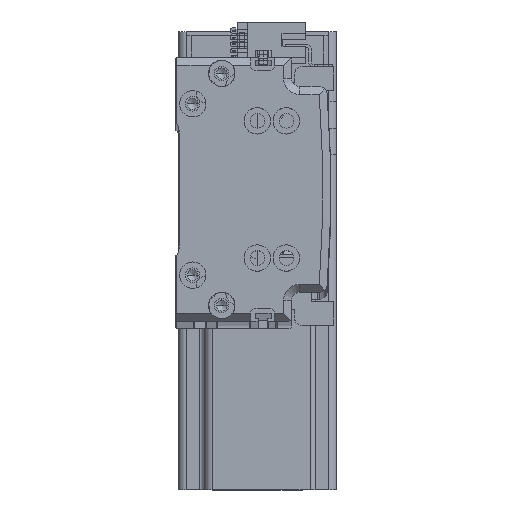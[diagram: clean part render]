
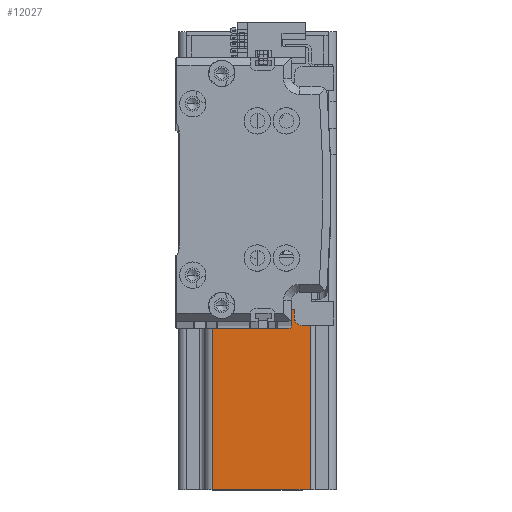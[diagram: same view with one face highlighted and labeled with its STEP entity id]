
A CAD part, top view. The second image highlights one B-rep face of the part: STEP entity #12027.
In plain terms, the highlighted planar face has unit normal (0, 0, 1) as drawn and (-1, 0, 0) by its records, which use the part's own axes.
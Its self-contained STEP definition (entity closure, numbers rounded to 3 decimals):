
#693 = CARTESIAN_POINT ( 'NONE',  ( -30., -27., 137. ) ) ;
#853 = ORIENTED_EDGE ( 'NONE', *, *, #19601, .T. ) ;
#1083 = DIRECTION ( 'NONE',  ( 0., -1., 0. ) ) ;
#2685 = VERTEX_POINT ( 'NONE', #27492 ) ;
#3790 = VERTEX_POINT ( 'NONE', #18867 ) ;
#3796 = CARTESIAN_POINT ( 'NONE',  ( -30., -27., 10. ) ) ;
#3964 = DIRECTION ( 'NONE',  ( 0., 0., 1. ) ) ;
#4351 = LINE ( 'NONE', #48556, #38304 ) ;
#4672 = DIRECTION ( 'NONE',  ( 1., 0., 0. ) ) ;
#6429 = ORIENTED_EDGE ( 'NONE', *, *, #43468, .T. ) ;
#7843 = VECTOR ( 'NONE', #55431, 1000. ) ;
#9100 = VERTEX_POINT ( 'NONE', #3796 ) ;
#11579 = VECTOR ( 'NONE', #56542, 1000. ) ;
#12027 = ADVANCED_FACE ( 'NONE', ( #15570 ), #45530, .F. ) ;
#15102 = CARTESIAN_POINT ( 'NONE',  ( -30., 20., 137. ) ) ;
#15570 = FACE_OUTER_BOUND ( 'NONE', #17859, .T. ) ;
#16461 = ORIENTED_EDGE ( 'NONE', *, *, #17379, .T. ) ;
#16935 = EDGE_CURVE ( 'NONE', #2685, #3790, #46987, .T. ) ;
#17379 = EDGE_CURVE ( 'NONE', #17384, #33699, #32418, .T. ) ;
#17384 = VERTEX_POINT ( 'NONE', #41652 ) ;
#17859 = EDGE_LOOP ( 'NONE', ( #46246, #51517, #46009, #45985, #853, #16461, #6429, #18887 ) ) ;
#18451 = CARTESIAN_POINT ( 'NONE',  ( -30., 27., 137. ) ) ;
#18667 = LINE ( 'NONE', #22605, #41769 ) ;
#18867 = CARTESIAN_POINT ( 'NONE',  ( -30., -17., 137. ) ) ;
#18887 = ORIENTED_EDGE ( 'NONE', *, *, #19077, .T. ) ;
#19077 = EDGE_CURVE ( 'NONE', #55881, #9100, #31220, .T. ) ;
#19153 = EDGE_CURVE ( 'NONE', #2685, #9100, #48613, .T. ) ;
#19601 = EDGE_CURVE ( 'NONE', #43903, #17384, #50717, .T. ) ;
#20878 = LINE ( 'NONE', #56178, #45419 ) ;
#22526 = CARTESIAN_POINT ( 'NONE',  ( -30., -27., 0. ) ) ;
#22605 = CARTESIAN_POINT ( 'NONE',  ( -30., 20., 10. ) ) ;
#24101 = CARTESIAN_POINT ( 'NONE',  ( -30., -30., 10. ) ) ;
#24664 = CARTESIAN_POINT ( 'NONE',  ( -30., 20., 10. ) ) ;
#24680 = VECTOR ( 'NONE', #31897, 1000. ) ;
#24916 = EDGE_CURVE ( 'NONE', #43903, #55465, #18667, .T. ) ;
#26770 = CARTESIAN_POINT ( 'NONE',  ( -30., 27., 0. ) ) ;
#26944 = AXIS2_PLACEMENT_3D ( 'NONE', #32356, #4672, #37002 ) ;
#27326 = CARTESIAN_POINT ( 'NONE',  ( -30., 30., 10. ) ) ;
#27492 = CARTESIAN_POINT ( 'NONE',  ( -30., -17., 10. ) ) ;
#27599 = DIRECTION ( 'NONE',  ( 0., 0., 1. ) ) ;
#29797 = VECTOR ( 'NONE', #27599, 1000. ) ;
#30129 = DIRECTION ( 'NONE',  ( 0., -1., 0. ) ) ;
#31220 = LINE ( 'NONE', #693, #29797 ) ;
#31897 = DIRECTION ( 'NONE',  ( 0., 1., 0. ) ) ;
#32356 = CARTESIAN_POINT ( 'NONE',  ( -30., -30., 137. ) ) ;
#32418 = LINE ( 'NONE', #18451, #7843 ) ;
#33133 = DIRECTION ( 'NONE',  ( 0., -1., 0. ) ) ;
#33699 = VERTEX_POINT ( 'NONE', #26770 ) ;
#36270 = VECTOR ( 'NONE', #1083, 1000. ) ;
#37002 = DIRECTION ( 'NONE',  ( 0., 0., -1. ) ) ;
#38304 = VECTOR ( 'NONE', #30129, 1000. ) ;
#41652 = CARTESIAN_POINT ( 'NONE',  ( -30., 27., 10. ) ) ;
#41769 = VECTOR ( 'NONE', #3964, 1000. ) ;
#43468 = EDGE_CURVE ( 'NONE', #33699, #55881, #4351, .T. ) ;
#43903 = VERTEX_POINT ( 'NONE', #24664 ) ;
#45419 = VECTOR ( 'NONE', #33133, 1000. ) ;
#45530 = PLANE ( 'NONE',  #26944 ) ;
#45985 = ORIENTED_EDGE ( 'NONE', *, *, #24916, .F. ) ;
#46009 = ORIENTED_EDGE ( 'NONE', *, *, #54891, .F. ) ;
#46246 = ORIENTED_EDGE ( 'NONE', *, *, #19153, .F. ) ;
#46987 = LINE ( 'NONE', #47402, #11579 ) ;
#47402 = CARTESIAN_POINT ( 'NONE',  ( -30., -17., 137. ) ) ;
#48556 = CARTESIAN_POINT ( 'NONE',  ( -30., -30., 0. ) ) ;
#48613 = LINE ( 'NONE', #24101, #36270 ) ;
#50717 = LINE ( 'NONE', #27326, #24680 ) ;
#51517 = ORIENTED_EDGE ( 'NONE', *, *, #16935, .T. ) ;
#54891 = EDGE_CURVE ( 'NONE', #55465, #3790, #20878, .T. ) ;
#55431 = DIRECTION ( 'NONE',  ( 0., 0., -1. ) ) ;
#55465 = VERTEX_POINT ( 'NONE', #15102 ) ;
#55881 = VERTEX_POINT ( 'NONE', #22526 ) ;
#56178 = CARTESIAN_POINT ( 'NONE',  ( -30., -30., 137. ) ) ;
#56542 = DIRECTION ( 'NONE',  ( 0., 0., 1. ) ) ;
